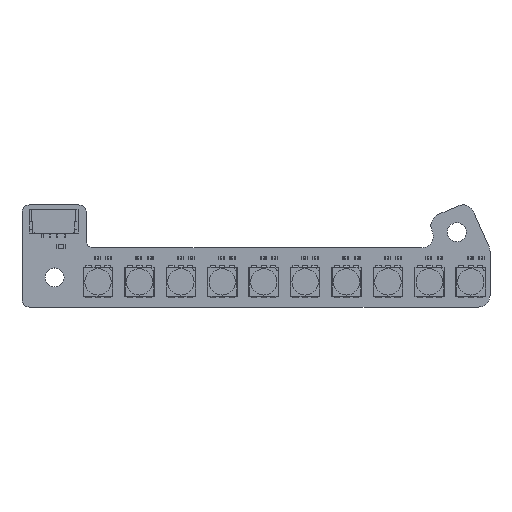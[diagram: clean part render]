
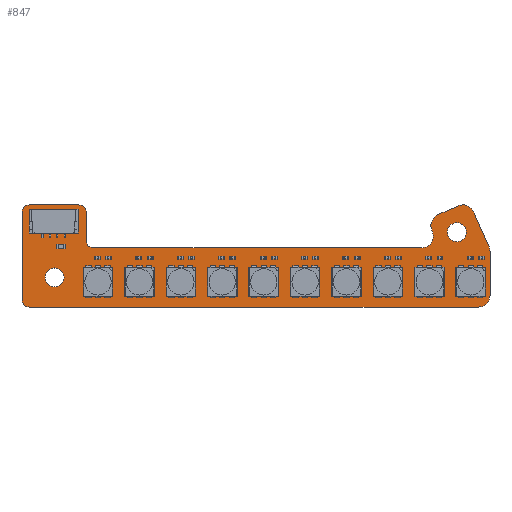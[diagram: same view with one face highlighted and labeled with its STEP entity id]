
A CAD part, top view. The second image highlights one B-rep face of the part: STEP entity #847.
In plain terms, the highlighted planar face has unit normal (0, 0, 1).
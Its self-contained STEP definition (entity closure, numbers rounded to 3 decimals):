
#180 = VERTEX_POINT('',#181);
#181 = CARTESIAN_POINT('',(1.27,0.,1.607));
#187 = EDGE_CURVE('',#180,#188,#190,.T.);
#188 = VERTEX_POINT('',#189);
#189 = CARTESIAN_POINT('',(0.,1.27,1.607));
#190 = CIRCLE('',#191,1.27);
#191 = AXIS2_PLACEMENT_3D('',#192,#193,#194);
#192 = CARTESIAN_POINT('',(1.27,1.27,1.607));
#193 = DIRECTION('',(0.,0.,-1.));
#194 = DIRECTION('',(0.,-1.,-0.));
#220 = EDGE_CURVE('',#188,#221,#223,.T.);
#221 = VERTEX_POINT('',#222);
#222 = CARTESIAN_POINT('',(0.,15.98,1.607));
#223 = LINE('',#224,#225);
#224 = CARTESIAN_POINT('',(0.,1.27,1.607));
#225 = VECTOR('',#226,1.);
#226 = DIRECTION('',(0.,1.,0.));
#251 = EDGE_CURVE('',#221,#252,#254,.T.);
#252 = VERTEX_POINT('',#253);
#253 = CARTESIAN_POINT('',(1.27,17.25,1.607));
#254 = CIRCLE('',#255,1.27);
#255 = AXIS2_PLACEMENT_3D('',#256,#257,#258);
#256 = CARTESIAN_POINT('',(1.27,15.98,1.607));
#257 = DIRECTION('',(0.,0.,-1.));
#258 = DIRECTION('',(-1.,0.,0.));
#284 = EDGE_CURVE('',#252,#285,#287,.T.);
#285 = VERTEX_POINT('',#286);
#286 = CARTESIAN_POINT('',(9.58,17.25,1.607));
#287 = LINE('',#288,#289);
#288 = CARTESIAN_POINT('',(1.27,17.25,1.607));
#289 = VECTOR('',#290,1.);
#290 = DIRECTION('',(1.,0.,0.));
#315 = EDGE_CURVE('',#285,#316,#318,.T.);
#316 = VERTEX_POINT('',#317);
#317 = CARTESIAN_POINT('',(10.85,15.98,1.607));
#318 = CIRCLE('',#319,1.27);
#319 = AXIS2_PLACEMENT_3D('',#320,#321,#322);
#320 = CARTESIAN_POINT('',(9.58,15.98,1.607));
#321 = DIRECTION('',(0.,0.,-1.));
#322 = DIRECTION('',(0.,1.,0.));
#348 = EDGE_CURVE('',#316,#349,#351,.T.);
#349 = VERTEX_POINT('',#350);
#350 = CARTESIAN_POINT('',(10.85,11.27,1.607));
#351 = LINE('',#352,#353);
#352 = CARTESIAN_POINT('',(10.85,15.98,1.607));
#353 = VECTOR('',#354,1.);
#354 = DIRECTION('',(0.,-1.,0.));
#379 = EDGE_CURVE('',#349,#380,#382,.T.);
#380 = VERTEX_POINT('',#381);
#381 = CARTESIAN_POINT('',(12.12,10.,1.607));
#382 = CIRCLE('',#383,1.27);
#383 = AXIS2_PLACEMENT_3D('',#384,#385,#386);
#384 = CARTESIAN_POINT('',(12.12,11.27,1.607));
#385 = DIRECTION('',(0.,0.,1.));
#386 = DIRECTION('',(-1.,0.,0.));
#412 = EDGE_CURVE('',#380,#413,#415,.T.);
#413 = VERTEX_POINT('',#414);
#414 = CARTESIAN_POINT('',(67.55,10.,1.607));
#415 = LINE('',#416,#417);
#416 = CARTESIAN_POINT('',(12.12,10.,1.607));
#417 = VECTOR('',#418,1.);
#418 = DIRECTION('',(1.,0.,0.));
#443 = EDGE_CURVE('',#413,#444,#446,.T.);
#444 = VERTEX_POINT('',#445);
#445 = CARTESIAN_POINT('',(69.35,12.754,1.607));
#446 = CIRCLE('',#447,1.965);
#447 = AXIS2_PLACEMENT_3D('',#448,#449,#450);
#448 = CARTESIAN_POINT('',(67.55,11.965,1.607));
#449 = DIRECTION('',(0.,0.,1.));
#450 = DIRECTION('',(0.,-1.,0.));
#476 = EDGE_CURVE('',#444,#477,#479,.T.);
#477 = VERTEX_POINT('',#478);
#478 = CARTESIAN_POINT('',(69.273,12.96,1.607));
#479 = LINE('',#480,#481);
#480 = CARTESIAN_POINT('',(69.35,12.754,1.607));
#481 = VECTOR('',#482,1.);
#482 = DIRECTION('',(-0.35,0.937,0.));
#507 = EDGE_CURVE('',#477,#508,#510,.T.);
#508 = VERTEX_POINT('',#509);
#509 = CARTESIAN_POINT('',(70.305,15.601,1.607));
#510 = CIRCLE('',#511,2.005);
#511 = AXIS2_PLACEMENT_3D('',#512,#513,#514);
#512 = CARTESIAN_POINT('',(71.11,13.764,1.607));
#513 = DIRECTION('',(0.,0.,-1.));
#514 = DIRECTION('',(-0.916,-0.401,-0.));
#540 = EDGE_CURVE('',#508,#541,#543,.T.);
#541 = VERTEX_POINT('',#542);
#542 = CARTESIAN_POINT('',(73.708,17.095,1.607));
#543 = LINE('',#544,#545);
#544 = CARTESIAN_POINT('',(70.305,15.601,1.607));
#545 = VECTOR('',#546,1.);
#546 = DIRECTION('',(0.916,0.402,0.));
#571 = EDGE_CURVE('',#541,#572,#574,.T.);
#572 = VERTEX_POINT('',#573);
#573 = CARTESIAN_POINT('',(76.343,16.065,1.607));
#574 = CIRCLE('',#575,2.);
#575 = AXIS2_PLACEMENT_3D('',#576,#577,#578);
#576 = CARTESIAN_POINT('',(74.511,15.264,1.607));
#577 = DIRECTION('',(0.,0.,-1.));
#578 = DIRECTION('',(-0.402,0.916,0.));
#604 = EDGE_CURVE('',#572,#605,#607,.T.);
#605 = VERTEX_POINT('',#606);
#606 = CARTESIAN_POINT('',(78.932,10.155,1.607));
#607 = LINE('',#608,#609);
#608 = CARTESIAN_POINT('',(76.343,16.065,1.607));
#609 = VECTOR('',#610,1.);
#610 = DIRECTION('',(0.401,-0.916,0.));
#635 = EDGE_CURVE('',#605,#636,#638,.T.);
#636 = VERTEX_POINT('',#637);
#637 = CARTESIAN_POINT('',(79.1,9.352,1.607));
#638 = CIRCLE('',#639,1.985);
#639 = AXIS2_PLACEMENT_3D('',#640,#641,#642);
#640 = CARTESIAN_POINT('',(77.115,9.356,1.607));
#641 = DIRECTION('',(0.,0.,-1.));
#642 = DIRECTION('',(0.915,0.403,0.));
#668 = EDGE_CURVE('',#636,#669,#671,.T.);
#669 = VERTEX_POINT('',#670);
#670 = CARTESIAN_POINT('',(79.1,2.,1.607));
#671 = LINE('',#672,#673);
#672 = CARTESIAN_POINT('',(79.1,9.352,1.607));
#673 = VECTOR('',#674,1.);
#674 = DIRECTION('',(0.,-1.,0.));
#699 = EDGE_CURVE('',#669,#700,#702,.T.);
#700 = VERTEX_POINT('',#701);
#701 = CARTESIAN_POINT('',(77.1,0.,1.607));
#702 = CIRCLE('',#703,2.001);
#703 = AXIS2_PLACEMENT_3D('',#704,#705,#706);
#704 = CARTESIAN_POINT('',(77.099,2.001,1.607));
#705 = DIRECTION('',(0.,0.,-1.));
#706 = DIRECTION('',(1.,0.,0.));
#732 = EDGE_CURVE('',#700,#180,#733,.T.);
#733 = LINE('',#734,#735);
#734 = CARTESIAN_POINT('',(77.1,0.,1.607));
#735 = VECTOR('',#736,1.);
#736 = DIRECTION('',(-1.,0.,0.));
#756 = VERTEX_POINT('',#757);
#757 = CARTESIAN_POINT('',(7.1,5.,1.607));
#763 = EDGE_CURVE('',#756,#756,#764,.T.);
#764 = CIRCLE('',#765,1.6);
#765 = AXIS2_PLACEMENT_3D('',#766,#767,#768);
#766 = CARTESIAN_POINT('',(5.5,5.,1.607));
#767 = DIRECTION('',(0.,0.,1.));
#768 = DIRECTION('',(1.,0.,-0.));
#789 = VERTEX_POINT('',#790);
#790 = CARTESIAN_POINT('',(75.1,12.65,1.607));
#796 = EDGE_CURVE('',#789,#789,#797,.T.);
#797 = CIRCLE('',#798,1.6);
#798 = AXIS2_PLACEMENT_3D('',#799,#800,#801);
#799 = CARTESIAN_POINT('',(73.5,12.65,1.607));
#800 = DIRECTION('',(0.,0.,1.));
#801 = DIRECTION('',(1.,0.,-0.));
#847 = ADVANCED_FACE('',(#848,#868,#871),#874,.F.);
#848 = FACE_BOUND('',#849,.F.);
#849 = EDGE_LOOP('',(#850,#851,#852,#853,#854,#855,#856,#857,#858,#859,
    #860,#861,#862,#863,#864,#865,#866,#867));
#850 = ORIENTED_EDGE('',*,*,#187,.T.);
#851 = ORIENTED_EDGE('',*,*,#220,.T.);
#852 = ORIENTED_EDGE('',*,*,#251,.T.);
#853 = ORIENTED_EDGE('',*,*,#284,.T.);
#854 = ORIENTED_EDGE('',*,*,#315,.T.);
#855 = ORIENTED_EDGE('',*,*,#348,.T.);
#856 = ORIENTED_EDGE('',*,*,#379,.T.);
#857 = ORIENTED_EDGE('',*,*,#412,.T.);
#858 = ORIENTED_EDGE('',*,*,#443,.T.);
#859 = ORIENTED_EDGE('',*,*,#476,.T.);
#860 = ORIENTED_EDGE('',*,*,#507,.T.);
#861 = ORIENTED_EDGE('',*,*,#540,.T.);
#862 = ORIENTED_EDGE('',*,*,#571,.T.);
#863 = ORIENTED_EDGE('',*,*,#604,.T.);
#864 = ORIENTED_EDGE('',*,*,#635,.T.);
#865 = ORIENTED_EDGE('',*,*,#668,.T.);
#866 = ORIENTED_EDGE('',*,*,#699,.T.);
#867 = ORIENTED_EDGE('',*,*,#732,.T.);
#868 = FACE_BOUND('',#869,.F.);
#869 = EDGE_LOOP('',(#870));
#870 = ORIENTED_EDGE('',*,*,#763,.T.);
#871 = FACE_BOUND('',#872,.F.);
#872 = EDGE_LOOP('',(#873));
#873 = ORIENTED_EDGE('',*,*,#796,.T.);
#874 = PLANE('',#875);
#875 = AXIS2_PLACEMENT_3D('',#876,#877,#878);
#876 = CARTESIAN_POINT('',(38.81,6.629,1.607));
#877 = DIRECTION('',(-0.,-0.,-1.));
#878 = DIRECTION('',(-1.,0.,0.));
